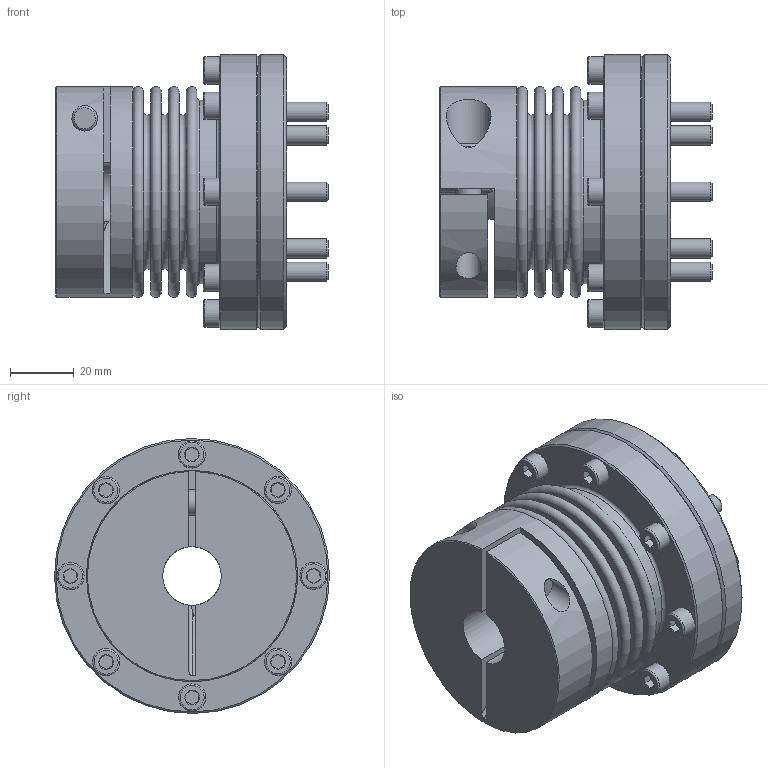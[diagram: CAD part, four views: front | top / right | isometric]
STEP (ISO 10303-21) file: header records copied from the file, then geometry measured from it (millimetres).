
FILE_DESCRIPTION( ( 'Unknown' ), '1' );
FILE_NAME( 'C:/Users/skarpstein/Desktop/KB4F/KB4F-60-68.stp', 'Unknown', ( 'Unknown' ), ( 'Unknown' ), 'PSStep 16.0.42', 'Unknown', ' ' );
FILE_SCHEMA( ( 'AUTOMOTIVE_DESIGN { 1 0 10303 214 1 1 1 1 }' ) );
Length unit declared in the file: millimetre
Products named in the file (8): Assem1; KN60C_Standard; BK60_Standard_0; Socket Head Cap Screw_DIN_DIN 912 M8 x 25 --- 25N_1; ISO 4017 - M6 x 25-N; ISO EN DIN 4762 M5x20; Kupplungsflansch F60; Flansch A50-F60
Assembly tree (21 placements, depth 2):
  Assem1
    KN60C_Standard
    BK60_Standard_0
    Socket Head Cap Screw_DIN_DIN 912 M8 x 25 --- 25N_1
    ISO 4017 - M6 x 25-N  x8
    ISO EN DIN 4762 M5x20  x8
    Kupplungsflansch F60
    Flansch A50-F60
Bounding box: 85.1 x 86 x 86 mm (x, y, z)
Volume: 174915.2 mm3; surface area: 93622.4 mm2
Topology: 21 solids, 21 shells, 501 faces, 1023 edges, 610 vertices
Faces by surface type: plane 251, cone 126, cylinder 79, torus 45
Full cylindrical faces by diameter (mm): 4.134 x8, 5 x8, 5.5 x8, 6 x8, 6.6 x8, 8 x2, 8.5 x9, 10 x8, 13 x1, 14 x1, 18.309 x1, 36 x2, 56.3 x3, 57.3 x2, 63 x1, 65 x2, 66 x1, 86 x2
Entity records: 6267 total; most frequent: CARTESIAN_POINT 977, DIRECTION 827, ORIENTED_EDGE 550, AXIS2_PLACEMENT_3D 378, EDGE_LOOP 348, EDGE_CURVE 275, FACE_OUTER_BOUND 248, VERTEX_POINT 230
